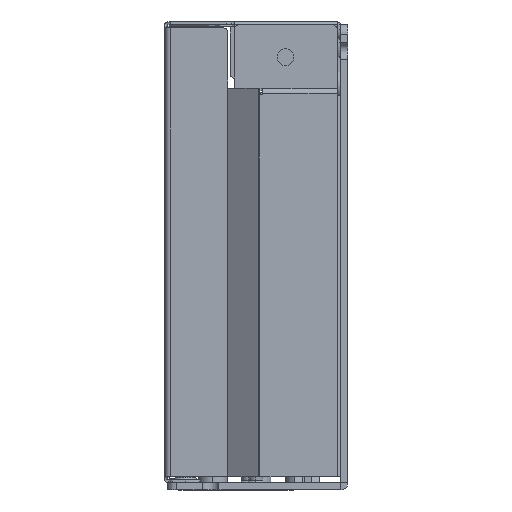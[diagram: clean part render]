
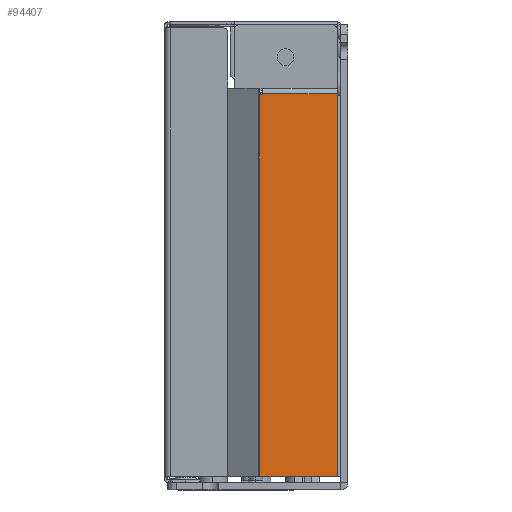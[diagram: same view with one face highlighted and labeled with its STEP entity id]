
A CAD part, left-side view. The second image highlights one B-rep face of the part: STEP entity #94407.
In plain terms, the highlighted planar face has unit normal (-1, 0, 0).
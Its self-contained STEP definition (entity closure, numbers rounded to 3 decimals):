
#41481=DIRECTION('',(0.,1.,0.));
#41482=VECTOR('',#41481,79.4);
#41483=CARTESIAN_POINT('',(-38.45,-32.95,-19.727));
#41484=LINE('',#41483,#41482);
#41488=CARTESIAN_POINT('',(-38.45,-33.15,-20.027));
#41489=DIRECTION('',(-1.,0.,0.));
#41490=DIRECTION('',(0.,0.667,0.745));
#41491=AXIS2_PLACEMENT_3D('',#41488,#41489,#41490);
#41496=DIRECTION('',(0.,1.,0.));
#41497=VECTOR('',#41496,0.3);
#41498=CARTESIAN_POINT('',(-38.45,-32.95,-35.8));
#41499=LINE('',#41498,#41497);
#41503=DIRECTION('',(0.,0.,1.));
#41504=VECTOR('',#41503,0.1);
#41505=CARTESIAN_POINT('',(-38.45,-32.65,-35.9));
#41506=LINE('',#41505,#41504);
#41510=DIRECTION('',(0.,-1.,0.));
#41511=VECTOR('',#41510,79.1);
#41512=CARTESIAN_POINT('',(-38.45,46.45,-35.9));
#41513=LINE('',#41512,#41511);
#41788=DIRECTION('',(0.,0.,-1.));
#41789=VECTOR('',#41788,16.173);
#41790=CARTESIAN_POINT('',(-38.45,46.45,-19.727));
#41791=LINE('',#41790,#41789);
#41869=DIRECTION('',(0.,0.,-1.));
#41870=VECTOR('',#41869,0.076);
#41871=CARTESIAN_POINT('',(-38.45,-32.95,-19.727));
#41872=LINE('',#41871,#41870);
#41892=DIRECTION('',(0.,0.,-1.));
#41893=VECTOR('',#41892,15.549);
#41894=CARTESIAN_POINT('',(-38.45,-32.95,-20.251));
#41895=LINE('',#41894,#41893);
#86755=CARTESIAN_POINT('',(-38.45,46.45,-19.727));
#86756=VERTEX_POINT('',#86755);
#86763=CARTESIAN_POINT('',(-38.45,-32.95,-19.727));
#86764=VERTEX_POINT('',#86763);
#86799=CARTESIAN_POINT('',(-38.45,-32.65,-35.9));
#86800=VERTEX_POINT('',#86799);
#86801=CARTESIAN_POINT('',(-38.45,46.45,-35.9));
#86802=VERTEX_POINT('',#86801);
#86819=CARTESIAN_POINT('',(-38.45,-32.95,-19.803));
#86820=CARTESIAN_POINT('',(-38.45,-32.95,-20.251));
#86821=VERTEX_POINT('',#86819);
#86822=VERTEX_POINT('',#86820);
#86848=CARTESIAN_POINT('',(-38.45,-32.95,-35.8));
#86849=VERTEX_POINT('',#86848);
#87122=CARTESIAN_POINT('',(-38.45,-32.65,-35.8));
#87123=VERTEX_POINT('',#87122);
#94384=CARTESIAN_POINT('',(-38.45,-46.65,-19.727));
#94385=DIRECTION('',(1.,0.,0.));
#94386=DIRECTION('',(0.,0.,-1.));
#94387=AXIS2_PLACEMENT_3D('',#94384,#94385,#94386);
#94388=PLANE('',#94387);
#94390=ORIENTED_EDGE('',*,*,#94389,.F.);
#94392=ORIENTED_EDGE('',*,*,#94391,.F.);
#94394=ORIENTED_EDGE('',*,*,#94393,.F.);
#94396=ORIENTED_EDGE('',*,*,#94395,.T.);
#94398=ORIENTED_EDGE('',*,*,#94397,.T.);
#94400=ORIENTED_EDGE('',*,*,#94399,.T.);
#94402=ORIENTED_EDGE('',*,*,#94401,.T.);
#94404=ORIENTED_EDGE('',*,*,#94403,.F.);
#94405=EDGE_LOOP('',(#94390,#94392,#94394,#94396,#94398,#94400,#94402,#94404));
#94406=FACE_OUTER_BOUND('',#94405,.F.);
#41492=CIRCLE('',#41491,0.3);
#94389=EDGE_CURVE('',#86802,#86800,#41513,.T.);
#94391=EDGE_CURVE('',#86756,#86802,#41791,.T.);
#94393=EDGE_CURVE('',#86764,#86756,#41484,.T.);
#94395=EDGE_CURVE('',#86764,#86821,#41872,.T.);
#94397=EDGE_CURVE('',#86821,#86822,#41492,.T.);
#94399=EDGE_CURVE('',#86822,#86849,#41895,.T.);
#94401=EDGE_CURVE('',#86849,#87123,#41499,.T.);
#94403=EDGE_CURVE('',#86800,#87123,#41506,.T.);
#94407=ADVANCED_FACE('',(#94406),#94388,.F.);
